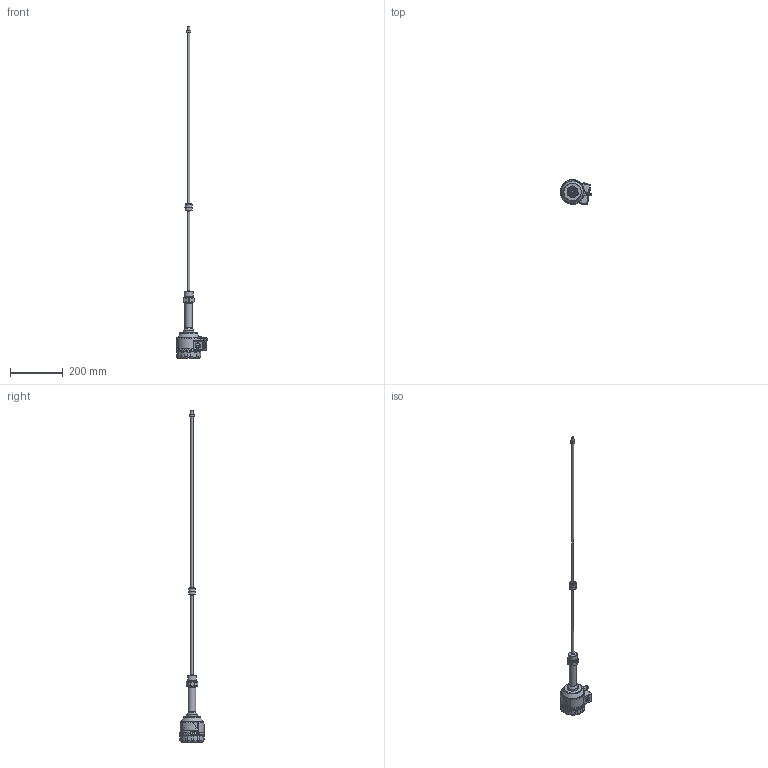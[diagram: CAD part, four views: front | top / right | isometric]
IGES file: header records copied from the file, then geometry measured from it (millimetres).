
Global section: file name: M_Mű_Aszer_1,5col,; native system: Autodesk Inventor 2015; preprocessor: unknown; author: aantal; date: 20150306.111522; units: millimetre
Bounding box: 118.55 x 93.09 x 1255.6 mm (x, y, z)
Volume: 884652.5 mm3; surface area: 126872.3 mm2
Topology: 15 solids, 15 shells, 1310 faces, 3267 edges, 2032 vertices
Faces by surface type: bspline 1310
